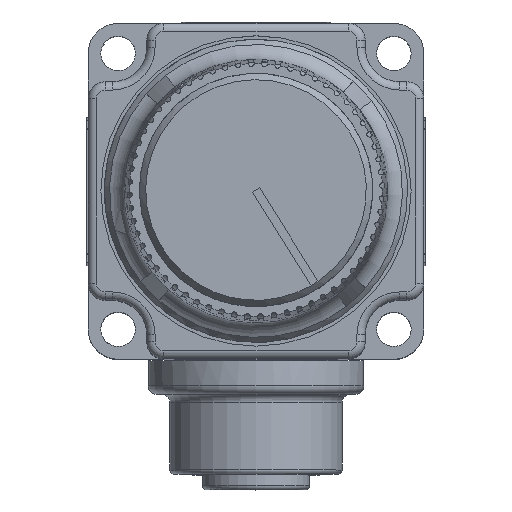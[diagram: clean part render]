
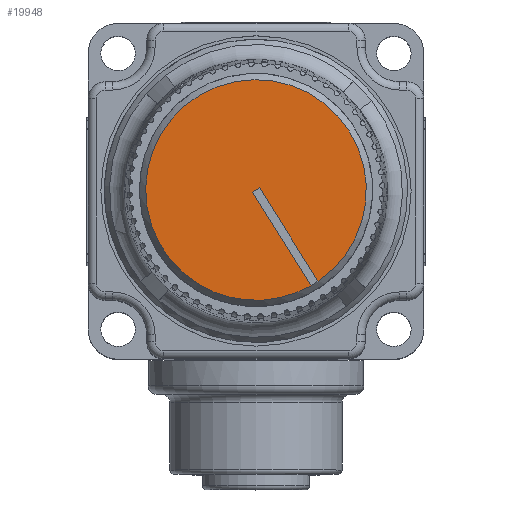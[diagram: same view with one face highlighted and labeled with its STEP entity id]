
A CAD part, top view. The second image highlights one B-rep face of the part: STEP entity #19948.
In plain terms, the highlighted planar face has unit normal (0, 0, 1).
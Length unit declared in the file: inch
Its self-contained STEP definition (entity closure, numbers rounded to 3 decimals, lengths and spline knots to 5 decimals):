
#2107=LINE('',#38607,#3517);
#2112=LINE('',#38626,#3522);
#2115=LINE('',#38631,#3525);
#3517=VECTOR('',#26661,0.3937);
#3522=VECTOR('',#26672,0.3937);
#3525=VECTOR('',#26677,0.3937);
#4830=FACE_OUTER_BOUND('',#6017,.T.);
#6017=EDGE_LOOP('',(#16170,#16171,#16172,#16173,#16174));
#6904=CIRCLE('',#21856,0.4);
#6905=CIRCLE('',#21857,0.4);
#8609=VERTEX_POINT('',#38605);
#8610=VERTEX_POINT('',#38606);
#8613=VERTEX_POINT('',#38619);
#8615=VERTEX_POINT('',#38625);
#8617=VERTEX_POINT('',#38635);
#11174=EDGE_CURVE('',#8609,#8610,#2107,.T.);
#11181=EDGE_CURVE('',#8615,#8613,#2112,.T.);
#11184=EDGE_CURVE('',#8610,#8615,#2115,.T.);
#11186=EDGE_CURVE('',#8613,#8617,#6904,.T.);
#11187=EDGE_CURVE('',#8617,#8609,#6905,.T.);
#16170=ORIENTED_EDGE('',*,*,#11181,.T.);
#16171=ORIENTED_EDGE('',*,*,#11186,.T.);
#16172=ORIENTED_EDGE('',*,*,#11187,.T.);
#16173=ORIENTED_EDGE('',*,*,#11174,.T.);
#16174=ORIENTED_EDGE('',*,*,#11184,.T.);
#17901=PLANE('',#21860);
#19948=ADVANCED_FACE('',(#4830),#17901,.T.);
#21856=AXIS2_PLACEMENT_3D('',#38636,#26683,#26684);
#21857=AXIS2_PLACEMENT_3D('',#38637,#26685,#26686);
#21860=AXIS2_PLACEMENT_3D('',#38643,#26692,#26693);
#26661=DIRECTION('',(-0.532,0.847,0.));
#26672=DIRECTION('',(0.532,-0.847,0.));
#26677=DIRECTION('',(0.847,0.532,0.));
#26683=DIRECTION('center_axis',(0.,0.,1.));
#26684=DIRECTION('ref_axis',(0.847,0.532,0.));
#26685=DIRECTION('center_axis',(0.,0.,1.));
#26686=DIRECTION('ref_axis',(0.847,0.532,0.));
#26692=DIRECTION('center_axis',(0.,0.,1.));
#26693=DIRECTION('ref_axis',(1.,0.,0.));
#38605=CARTESIAN_POINT('',(-0.35224,-0.39223,1.8705));
#38606=CARTESIAN_POINT('',(-0.56473,-0.05367,1.8705));
#38607=CARTESIAN_POINT('',(-0.35224,-0.39223,1.8705));
#38619=CARTESIAN_POINT('',(-0.32683,-0.37628,1.8705));
#38625=CARTESIAN_POINT('',(-0.53932,-0.03772,1.8705));
#38626=CARTESIAN_POINT('',(-0.53932,-0.03772,1.8705));
#38631=CARTESIAN_POINT('',(-0.56473,-0.05367,1.8705));
#38635=CARTESIAN_POINT('',(-0.70418,-0.41562,1.8705));
#38636=CARTESIAN_POINT('Origin',(-0.55202,-0.04569,1.8705));
#38637=CARTESIAN_POINT('Origin',(-0.55202,-0.04569,1.8705));
#38643=CARTESIAN_POINT('Origin',(-0.90079,-0.26153,
1.8705));
